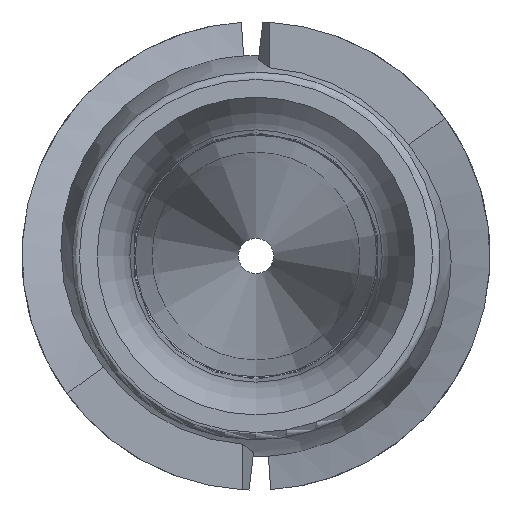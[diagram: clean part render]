
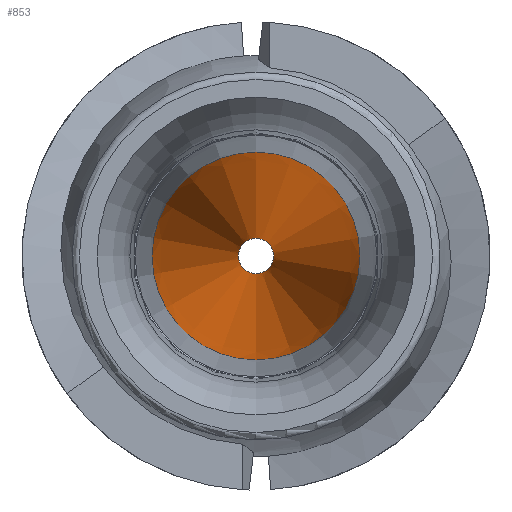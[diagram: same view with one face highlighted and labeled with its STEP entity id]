
A CAD part, front view. The second image highlights one B-rep face of the part: STEP entity #853.
In plain terms, the highlighted conical face has half-angle 4.715 degrees and reference radius 1.727 mm.
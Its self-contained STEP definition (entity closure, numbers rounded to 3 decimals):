
#10 = DIRECTION ( 'NONE',  ( 0., 0., 1. ) ) ;
#59 = AXIS2_PLACEMENT_3D ( 'NONE', #1226, #1630, #429 ) ;
#98 = CARTESIAN_POINT ( 'NONE',  ( 0., 31.496, 0. ) ) ;
#141 = AXIS2_PLACEMENT_3D ( 'NONE', #98, #202, #1418 ) ;
#202 = DIRECTION ( 'NONE',  ( 0., 1., 0. ) ) ;
#310 = CIRCLE ( 'NONE', #919, 1.727 ) ;
#340 = CONICAL_SURFACE ( 'NONE', #59, 1.727, 0.082 ) ;
#351 = VERTEX_POINT ( 'NONE', #479 ) ;
#429 = DIRECTION ( 'NONE',  ( 0., 0., -1. ) ) ;
#479 = CARTESIAN_POINT ( 'NONE',  ( 0., 14.097, 1.727 ) ) ;
#623 = EDGE_CURVE ( 'NONE', #1151, #1151, #1714, .T. ) ;
#633 = DIRECTION ( 'NONE',  ( 0., 1., 0. ) ) ;
#640 = ORIENTED_EDGE ( 'NONE', *, *, #623, .T. ) ;
#684 = FACE_BOUND ( 'NONE', #930, .T. ) ;
#692 = FACE_OUTER_BOUND ( 'NONE', #1084, .T. ) ;
#853 = ADVANCED_FACE ( 'NONE', ( #684, #692 ), #340, .F. ) ;
#901 = CARTESIAN_POINT ( 'NONE',  ( 0., 31.496, 0.292 ) ) ;
#919 = AXIS2_PLACEMENT_3D ( 'NONE', #1446, #633, #10 ) ;
#930 = EDGE_LOOP ( 'NONE', ( #640 ) ) ;
#1084 = EDGE_LOOP ( 'NONE', ( #1092 ) ) ;
#1092 = ORIENTED_EDGE ( 'NONE', *, *, #1230, .F. ) ;
#1151 = VERTEX_POINT ( 'NONE', #901 ) ;
#1226 = CARTESIAN_POINT ( 'NONE',  ( 0., 14.097, 0. ) ) ;
#1230 = EDGE_CURVE ( 'NONE', #351, #351, #310, .T. ) ;
#1418 = DIRECTION ( 'NONE',  ( 0., 0., 1. ) ) ;
#1446 = CARTESIAN_POINT ( 'NONE',  ( 0., 14.097, 0. ) ) ;
#1630 = DIRECTION ( 'NONE',  ( 0., -1., 0. ) ) ;
#1714 = CIRCLE ( 'NONE', #141, 0.292 ) ;
